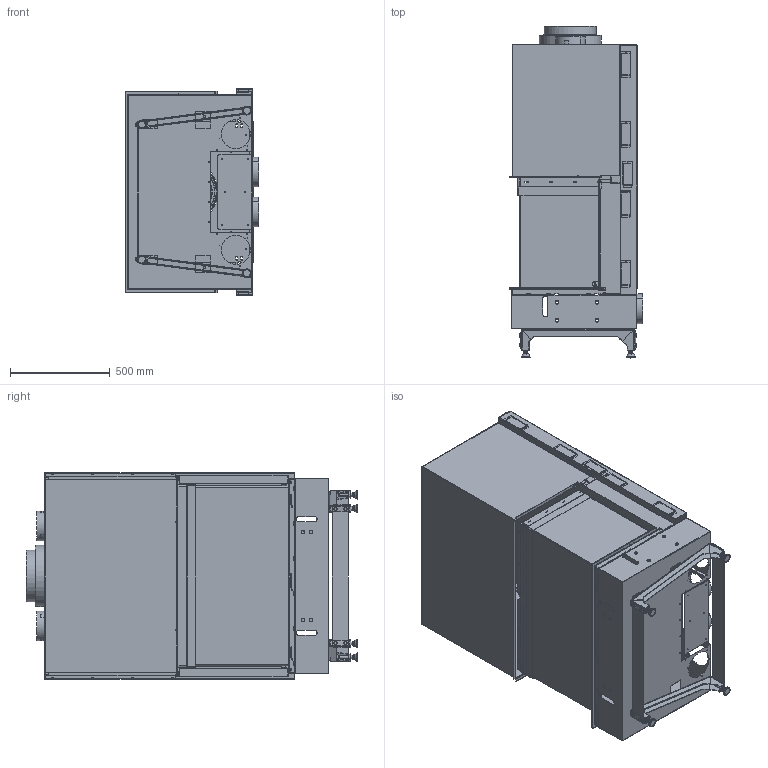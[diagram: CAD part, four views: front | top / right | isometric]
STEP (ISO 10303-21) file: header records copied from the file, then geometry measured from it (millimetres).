
FILE_DESCRIPTION (( 'STEP AP214' ), '1' );
FILE_NAME ('W90 47S 4mm Kader.STEP', '2020-06-16T15:11:47', ( '' ), ( '' ), 'SwSTEP 2.0', 'SolidWorks 2018', '' );
FILE_SCHEMA (( 'AUTOMOTIVE_DESIGN' ));
Length unit declared in the file: millimetre
Products named in the file (1): W90 47S 4mm Kader
Bounding box: 670.75 x 1662.5 x 1036 mm (x, y, z)
Volume: 13833998.6 mm3; surface area: 13840688.7 mm2
Topology: 85 solids, 85 shells, 4116 faces, 10636 edges, 6694 vertices
Faces by surface type: plane 2266, cylinder 1607, cone 152, bspline 83, torus 8
Full cylindrical faces by diameter (mm): 256 x1, 260 x1, 282 x2, 286 x2, 300 x2, 304 x2, 306 x1, 310 x1
Entity records: 176435 total; most frequent: CARTESIAN_POINT 26483, DIRECTION 21756, ORIENTED_EDGE 21272, EDGE_CURVE 10636, AXIS2_PLACEMENT_3D 7448, LINE 6860, VECTOR 6860, VERTEX_POINT 6694
